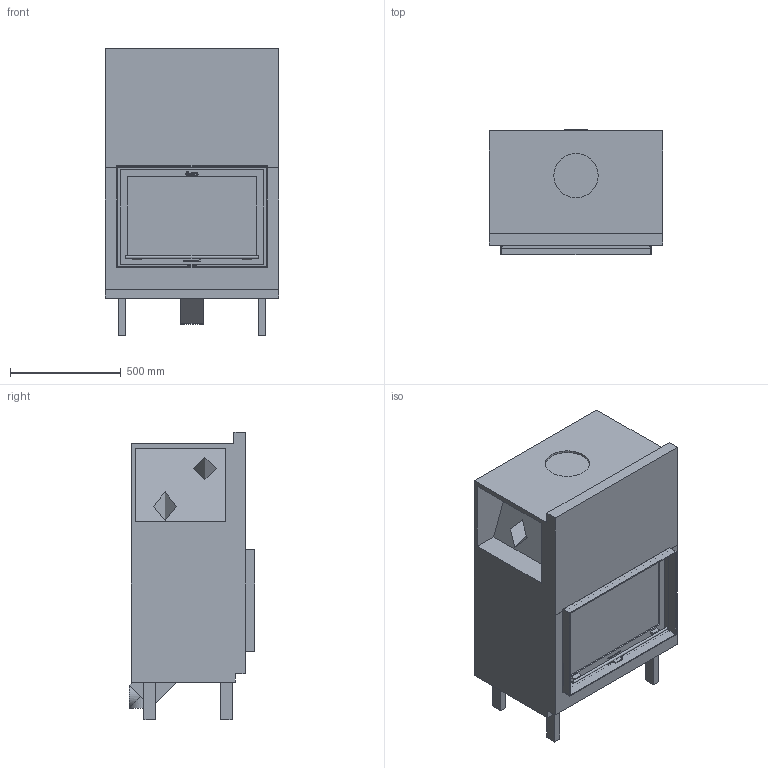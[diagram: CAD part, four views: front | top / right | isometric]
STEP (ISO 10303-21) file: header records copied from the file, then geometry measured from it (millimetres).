
FILE_DESCRIPTION( ( 'Unknown' ), '1' );
FILE_NAME( 'C:/Documents and Settings/hapierrea/Application Data/Unigraphics Solutions/Solid Edge/Insight/insight/Insight/interior models/Ci10 p Door Frame Assembly.stp', '2010', ( 'Unknown' ), ( 'NIBE AB' ), 'PSStep 11.0', 'Solid Edge', ' ' );
FILE_SCHEMA( ( 'AUTOMOTIVE_DESIGN { 1 0 10303 214 1 1 1 1 }' ) );
Length unit declared in the file: millimetre
Products named in the file (8): Assem1; Fire i10; Grate i10 i20; Insert i10; Firebox insulation i10; Door i10; Door frame i10; Glass i10
Bounding box: 781 x 565.5 x 1298.26 mm (x, y, z)
Surface area: 21792927.8 mm2
Topology: 14 solids, 14 shells, 1984 faces, 5316 edges, 3510 vertices
Faces by surface type: plane 1318, extrusion 400, cylinder 242, cone 20, sphere 4
Full cylindrical faces by diameter (mm): 12 x2, 100 x4, 200 x4
Entity records: 42471 total; most frequent: CARTESIAN_POINT 10189, ORIENTED_EDGE 5302, DIRECTION 4371, EDGE_CURVE 2651, VECTOR 1795, VERTEX_POINT 1755, LINE 1595, AXIS2_PLACEMENT_3D 1288
